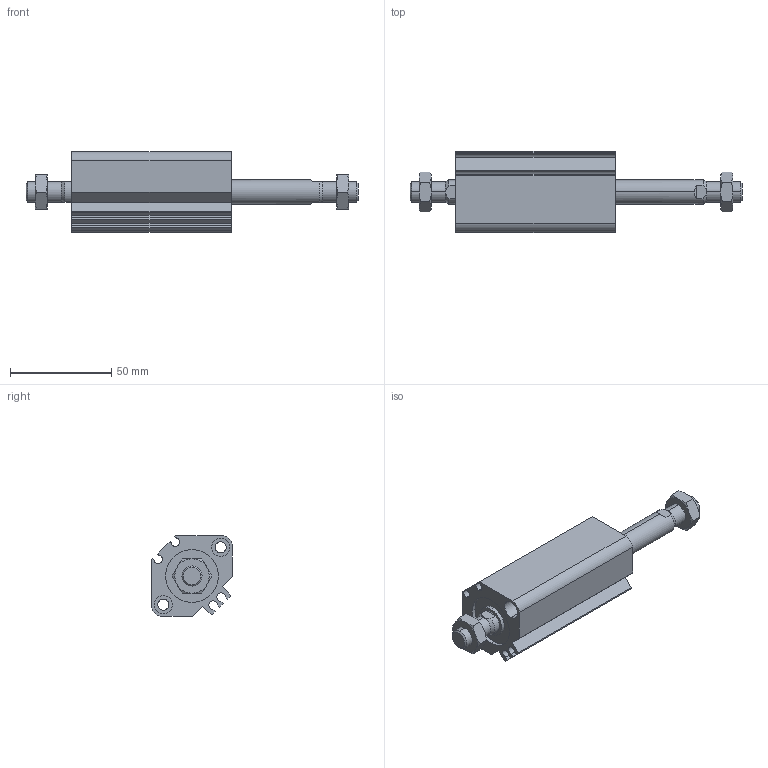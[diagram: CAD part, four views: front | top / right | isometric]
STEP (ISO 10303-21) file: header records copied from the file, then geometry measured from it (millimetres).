
FILE_DESCRIPTION (( 'STEP AP203' ), '1' );
FILE_NAME ('CCMB25-40M-P.STEP', '2020-08-10T11:29:44', ( '' ), ( '' ), 'SwSTEP 2.0', 'SolidWorks 2019', '' );
FILE_SCHEMA (( 'CONFIG_CONTROL_DESIGN' ));
Length unit declared in the file: millimetre
Products named in the file (1): CCMB25-40M-P
Bounding box: 164 x 40 x 40 mm (x, y, z)
Volume: 94893.5 mm3; surface area: 36110.6 mm2
Topology: 4 solids, 4 shells, 166 faces, 384 edges, 240 vertices
Faces by surface type: plane 66, cylinder 56, cone 44
Entity records: 5403 total; most frequent: CARTESIAN_POINT 1543, DIRECTION 806, ORIENTED_EDGE 768, EDGE_CURVE 384, AXIS2_PLACEMENT_3D 319, VERTEX_POINT 240, EDGE_LOOP 190, LINE 168
